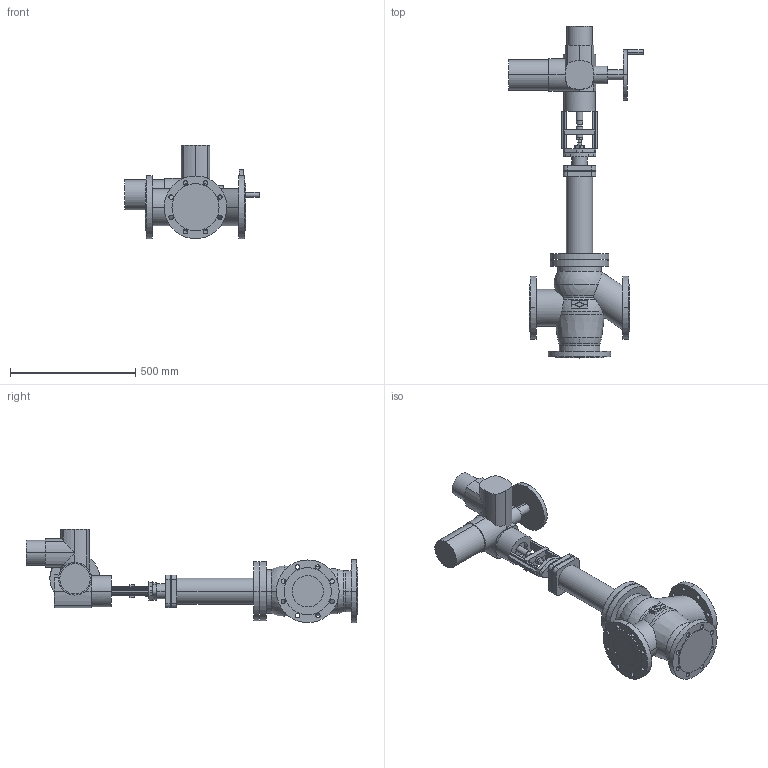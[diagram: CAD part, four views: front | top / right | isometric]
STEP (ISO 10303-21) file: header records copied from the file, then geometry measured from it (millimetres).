
FILE_DESCRIPTION(('OneSpaceDesigner STEP Export'),'2;1');
FILE_NAME('c000003200.stp','2007-01-26T13:19:15',(''),(''),'OneSpace Designer STEP processor for AP214 (Solid Model)','OneSpace Designer 14.00B 27-May-2006 (C) CoCreate Software GmbH','');
FILE_SCHEMA(('AUTOMOTIVE_DESIGN { 1 0 10303 214 1 1 1 1 }'));
Length unit declared in the file: millimetre
Products named in the file (2): 1; 2
Bounding box: 536 x 1323.2 x 372 mm (x, y, z)
Volume: 32249001.2 mm3; surface area: 1403847.5 mm2
Topology: 2 solids, 2 shells, 362 faces, 935 edges, 594 vertices
Faces by surface type: cylinder 186, plane 154, torus 8, sphere 8, cone 6
Entity records: 10535 total; most frequent: CARTESIAN_POINT 2312, ORIENTED_EDGE 1854, DIRECTION 1528, EDGE_CURVE 927, VERTEX_POINT 594, AXIS2_PLACEMENT_3D 535, VECTOR 458, LINE 458
